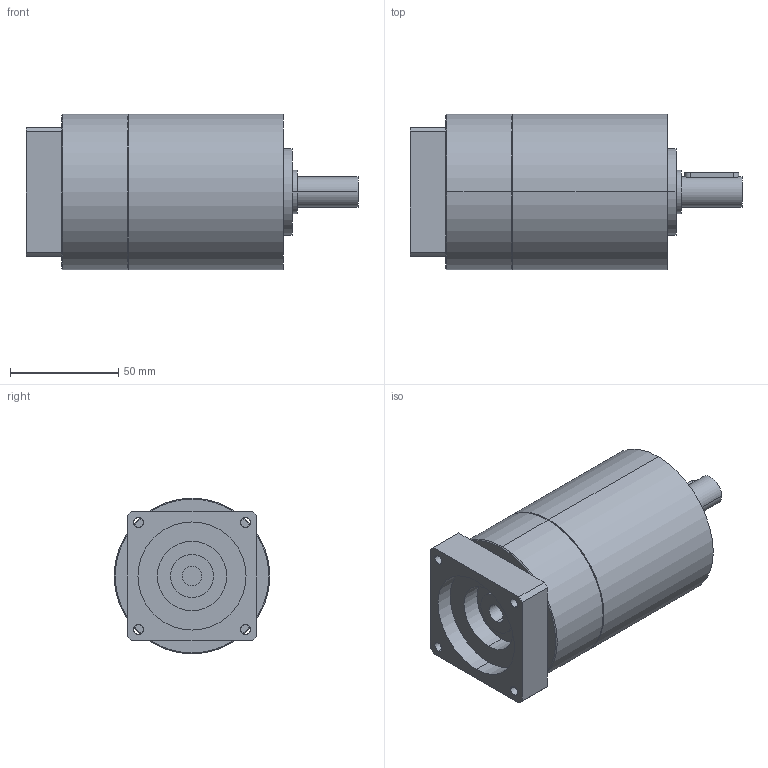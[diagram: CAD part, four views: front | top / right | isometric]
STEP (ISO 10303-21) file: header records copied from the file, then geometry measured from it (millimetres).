
FILE_DESCRIPTION(('CoCreate Modeling STEP Export'),'2;1');
FILE_NAME('GPT75_ig-9-12-16-20-25-28-35-40-50-70-100_14_B14T_9_P17.stp','2014-08-27T13:27:18',(''),(''),'CoCreate Modeling STEP processor for AP214 (Solid Model)','CoCreate Modeling 16.00C 25-Feb-2009 (C) Parametric Technology GmbH','');
FILE_SCHEMA(('AUTOMOTIVE_DESIGN { 1 0 10303 214 1 1 1 1 }'));
Length unit declared in the file: millimetre
Products named in the file (2): GPT75_ig-9-12-16-20-25-28-35-40-50-70-100_14_B14T_9_P17
Assembly tree (1 placements, depth 2):
  GPT75_ig-9-12-16-20-25-28-35-40-50-70-100_14_B14T_9_P17
    GPT75_ig-9-12-16-20-25-28-35-40-50-70-100_14_B14T_9_P17
Bounding box: 153.5 x 72 x 72 mm (x, y, z)
Volume: 461364.9 mm3; surface area: 42658.5 mm2
Topology: 1 solids, 1 shells, 80 faces, 198 edges, 129 vertices
Faces by surface type: cylinder 42, plane 34, cone 4
Entity records: 2353 total; most frequent: CARTESIAN_POINT 689, ORIENTED_EDGE 396, DIRECTION 276, EDGE_CURVE 198, VERTEX_POINT 129, AXIS2_PLACEMENT_3D 104, EDGE_LOOP 97, FACE_OUTER_BOUND 80
